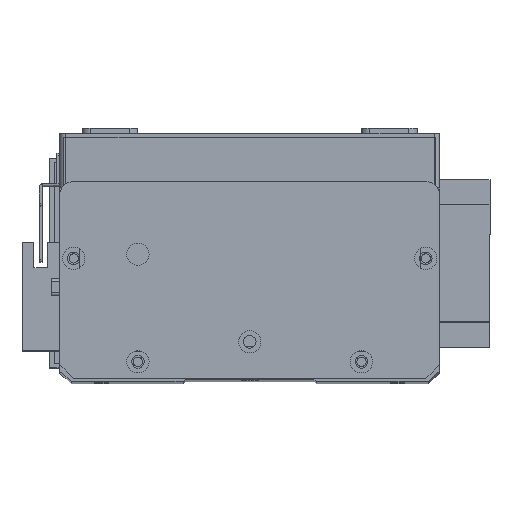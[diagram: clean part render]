
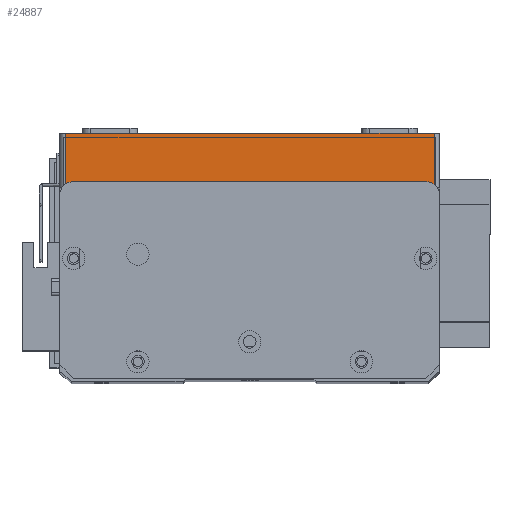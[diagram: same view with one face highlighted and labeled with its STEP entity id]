
A CAD part, top view. The second image highlights one B-rep face of the part: STEP entity #24887.
In plain terms, the highlighted planar face has unit normal (0, 0, 1) as drawn and (0, -1, 0) by its records, which use the part's own axes.
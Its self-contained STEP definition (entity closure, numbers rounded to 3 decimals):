
#115 = CARTESIAN_POINT ( 'NONE',  ( 0., 0., 19.5 ) ) ;
#397 = ORIENTED_EDGE ( 'NONE', *, *, #14642, .T. ) ;
#633 = ORIENTED_EDGE ( 'NONE', *, *, #4699, .T. ) ;
#1133 = ORIENTED_EDGE ( 'NONE', *, *, #3526, .T. ) ;
#1523 = DIRECTION ( 'NONE',  ( 1., 0., 0. ) ) ;
#2699 = LINE ( 'NONE', #17517, #7125 ) ;
#2802 = VERTEX_POINT ( 'NONE', #11581 ) ;
#2813 = CARTESIAN_POINT ( 'NONE',  ( 134., 0., 19.5 ) ) ;
#3526 = EDGE_CURVE ( 'NONE', #2802, #22052, #4267, .T. ) ;
#4267 = LINE ( 'NONE', #15378, #20477 ) ;
#4699 = EDGE_CURVE ( 'NONE', #16721, #2802, #28071, .T. ) ;
#6664 = FACE_OUTER_BOUND ( 'NONE', #8500, .T. ) ;
#7125 = VECTOR ( 'NONE', #19747, 1000. ) ;
#7806 = ORIENTED_EDGE ( 'NONE', *, *, #11235, .F. ) ;
#8500 = EDGE_LOOP ( 'NONE', ( #7806, #397, #633, #1133 ) ) ;
#8831 = DIRECTION ( 'NONE',  ( 0., 0., 1. ) ) ;
#9260 = DIRECTION ( 'NONE',  ( 0., 1., 0. ) ) ;
#9722 = VECTOR ( 'NONE', #1523, 1000. ) ;
#11235 = EDGE_CURVE ( 'NONE', #18740, #22052, #24830, .T. ) ;
#11581 = CARTESIAN_POINT ( 'NONE',  ( 134., 0., 0. ) ) ;
#13432 = CARTESIAN_POINT ( 'NONE',  ( 2., 0., 19.5 ) ) ;
#14642 = EDGE_CURVE ( 'NONE', #18740, #16721, #2699, .T. ) ;
#15378 = CARTESIAN_POINT ( 'NONE',  ( 134., 0., 19.5 ) ) ;
#16526 = VECTOR ( 'NONE', #24417, 1000. ) ;
#16721 = VERTEX_POINT ( 'NONE', #19661 ) ;
#17517 = CARTESIAN_POINT ( 'NONE',  ( 2., 0., 19.5 ) ) ;
#18049 = PLANE ( 'NONE',  #23066 ) ;
#18740 = VERTEX_POINT ( 'NONE', #13432 ) ;
#19661 = CARTESIAN_POINT ( 'NONE',  ( 2., 0., 0. ) ) ;
#19747 = DIRECTION ( 'NONE',  ( 0., 0., -1. ) ) ;
#20477 = VECTOR ( 'NONE', #8831, 1000. ) ;
#22052 = VERTEX_POINT ( 'NONE', #2813 ) ;
#22494 = CARTESIAN_POINT ( 'NONE',  ( 0., 0., 19.5 ) ) ;
#23066 = AXIS2_PLACEMENT_3D ( 'NONE', #22494, #9260, #24744 ) ;
#24417 = DIRECTION ( 'NONE',  ( 1., 0., 0. ) ) ;
#24744 = DIRECTION ( 'NONE',  ( 0., 0., 1. ) ) ;
#24830 = LINE ( 'NONE', #115, #16526 ) ;
#24887 = ADVANCED_FACE ( 'NONE', ( #6664 ), #18049, .F. ) ;
#27963 = CARTESIAN_POINT ( 'NONE',  ( 0., 0., 0. ) ) ;
#28071 = LINE ( 'NONE', #27963, #9722 ) ;
